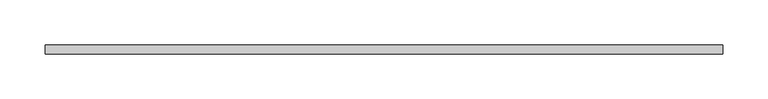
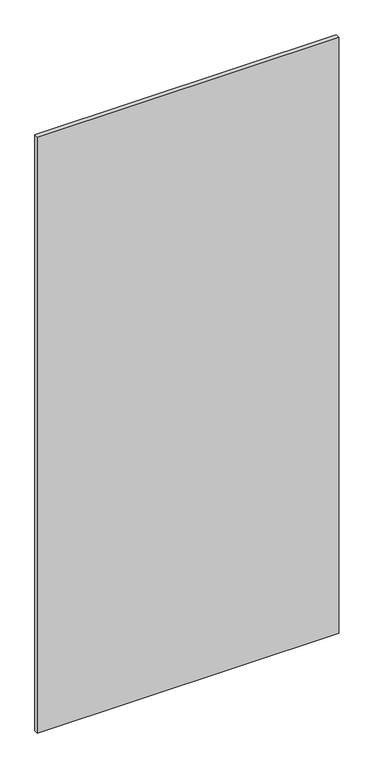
"""IFC4 building model written with IfcOpenShell, lengths in millimetres: plate geometry, Panel Flex Glassline_10mm : Panel Flex Glassline_10mm."""

from ifc_helpers import new_model, si_unit, origin, origin_with_axes, place, context, project, spatial, polyline, outline, extrude, source, transform, mapped, element, save


def plate_da70822d(model_context):
    return source(origin(), model_context, "Body", "SweptSolid", [
        extrude(outline(polyline([(375.9729858, 12.4), (375.9729858, 2.4), (-375.9729858, 2.4), (-375.9729858, 12.4), (375.9729858, 12.4)])), origin_with_axes(), (0.0, 0.0, 1.0), 1571.3454707),
    ])


if __name__ == "__main__":
    model = new_model("IFC4")
    model_context = context("Model", 3, world=origin())
    ifc_project = project(units=[si_unit("LENGTHUNIT", "METRE", prefix="MILLI")], contexts=[model_context])
    site = spatial("IfcSite", under=ifc_project)
    building = spatial("IfcBuilding", under=site)
    placement = place(None, origin())
    plate_shape = plate_da70822d(model_context)
    element("IfcPlate", 1, ObjectType="Panel Flex Glassline_10mm : Panel Flex Glassline_10mm", at=placement, inside=building, context=model_context, shape_type="MappedRepresentation", body=[
        mapped(plate_shape, transform((0.0, 0.0, 0.0), x_axis=(1.0, 0.0, 0.0), y_axis=(0.0, 1.0, 0.0), z_axis=(0.0, 0.0, 1.0))),
    ])
    save(model, "model.ifc")
